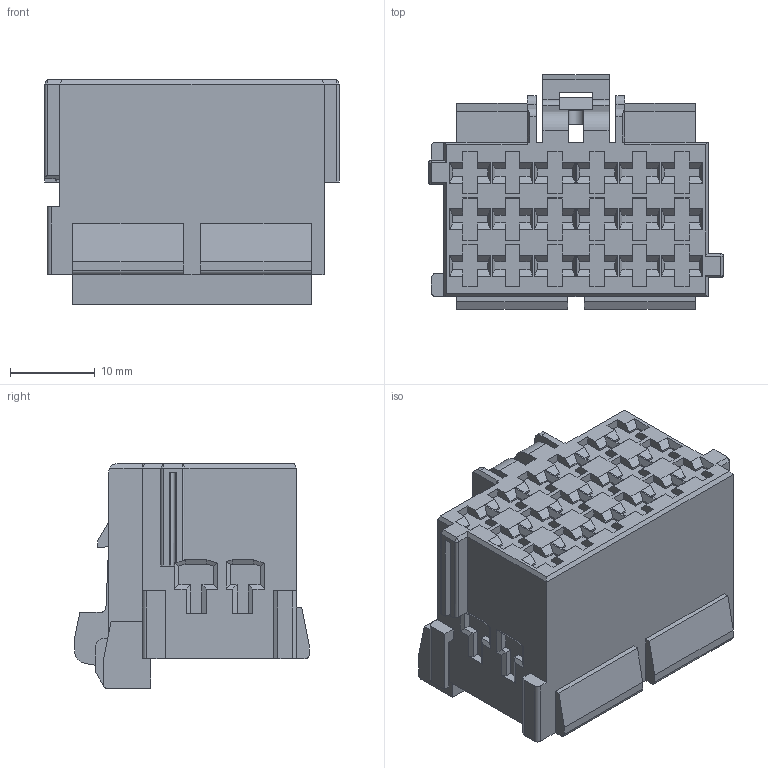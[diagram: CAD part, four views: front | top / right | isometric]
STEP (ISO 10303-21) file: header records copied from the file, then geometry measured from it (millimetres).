
FILE_DESCRIPTION((''),'2;1');
FILE_NAME('C-1-967624-1','2008-11-17T',('workeradm'),('Tyco Electronics Corporation'),'PRO/ENGINEER BY PARAMETRIC TECHNOLOGY CORPORATION, 2005450','PRO/ENGINEER BY PARAMETRIC TECHNOLOGY CORPORATION, 2005450','');
FILE_SCHEMA(('CONFIG_CONTROL_DESIGN', 'GEOMETRIC_VALIDATION_PROPERTIES_MIM'));
Length unit declared in the file: millimetre
Products named in the file (1): C-1-967624-1
Bounding box: 34.8 x 27.69 x 26.5 mm (x, y, z)
Volume: 14012 mm3; surface area: 5742.5 mm2
Topology: 1 solids, 1 shells, 617 faces, 1625 edges, 1043 vertices
Faces by surface type: plane 589, cylinder 24, cone 4
Entity records: 18677 total; most frequent: CARTESIAN_POINT 3316, ORIENTED_EDGE 3250, DIRECTION 2904, EDGE_CURVE 1625, VECTOR 1568, LINE 1568, VERTEX_POINT 1043, AXIS2_PLACEMENT_3D 668
